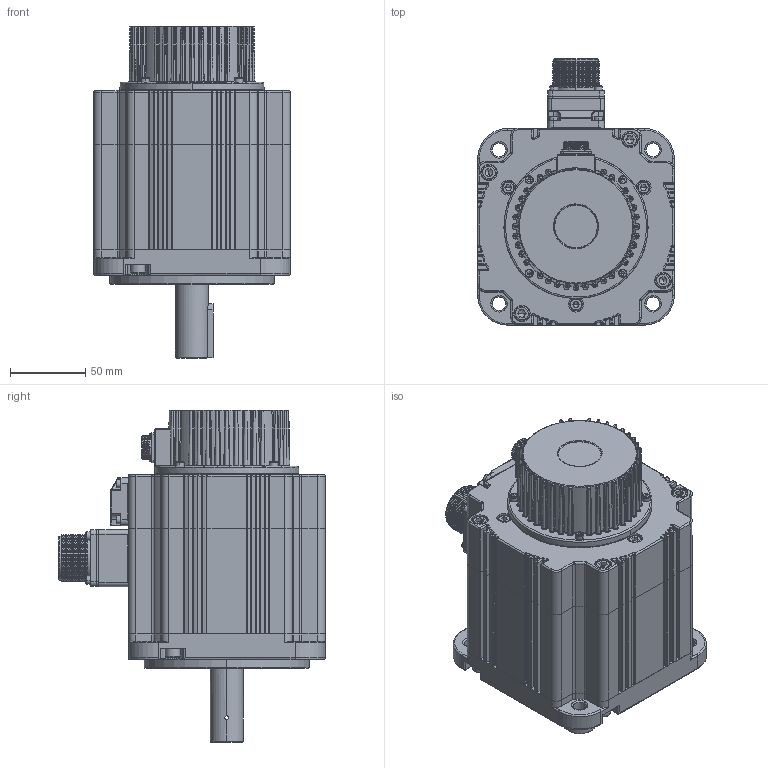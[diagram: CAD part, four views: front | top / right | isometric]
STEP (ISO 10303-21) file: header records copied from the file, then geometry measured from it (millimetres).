
FILE_DESCRIPTION (( 'STEP AP214' ), '1' );
FILE_NAME ('9120122240+V7E-M13A-R8515-D2C.STEP', '2021-08-11T05:25:38', ( '' ), ( '' ), 'SwSTEP 2.0', 'SolidWorks 2014', '' );
FILE_SCHEMA (( 'AUTOMOTIVE_DESIGN' ));
Length unit declared in the file: millimetre
Products named in the file (22): SC瑤諾脣芛 16M-9H; SC晤鎢ん欶200908_9郋; SC瑤諾脣芛 MS3102A20-18P; 130陔ヶ傷裔200902; 零件1^V7-130#电机组件（带刹车）200927; SC綴傷裔200903-4晚源倛; 雄薯瑤脣釱200909; 价陬裔躇猾菜200915; V7-130#定子组件（不带刹车）; 价陬揤盄裔200912; 蚐猾 D00B999YF7-TC 30-42-7; 囀鞠褒 M6X20; 坋趼攫芛 M2X8; 囀鞠褒 M3X30; 儂褲200901; 9120122240+V7E-M13A-R8515-D2C; 囀鞠褒 M6X40; 130陔ヶ傷裔200917; 囀鞠褒 M5X16; 囀鞠褒 M3X8; SC粣200907; 囀鞠褒 M3X10
Assembly tree (40 placements, depth 4):
  零件1^V7-130#电机组件（带刹车）200927
  9120122240+V7E-M13A-R8515-D2C
    V7-130#定子组件（不带刹车）
      儂褲200901
      雄薯瑤脣釱200909
      囀鞠褒 M6X20  x4
      SC瑤諾脣芛 MS3102A20-18P
      囀鞠褒 M3X30  x4
      130陔ヶ傷裔200917
        130陔ヶ傷裔200902
    SC晤鎢ん欶200908_9郋
    囀鞠褒 M3X10  x4
    坋趼攫芛 M2X8  x4
    蚐猾 D00B999YF7-TC 30-42-7
    SC瑤諾脣芛 16M-9H
    价陬揤盄裔200912
    囀鞠褒 M3X8  x4
    囀鞠褒 M6X40  x4
    价陬裔躇猾菜200915
    SC粣200907
    SC綴傷裔200903-4晚源倛
    囀鞠褒 M5X16  x3
Bounding box: 131 x 177.3 x 221.2 mm (x, y, z)
Volume: 901549.4 mm3; surface area: 323554.7 mm2
Topology: 40 solids, 40 shells, 3519 faces, 8459 edges, 4898 vertices
Faces by surface type: cylinder 1315, plane 922, bspline 877, cone 355, torus 46, sphere 4
Entity records: 150307 total; most frequent: CARTESIAN_POINT 51309, ORIENTED_EDGE 14152, DIRECTION 12957, EDGE_CURVE 7076, AXIS2_PLACEMENT_3D 5124, VERTEX_POINT 4205, EDGE_LOOP 3275, UNCERTAINTY_MEASURE_WITH_UNIT 3074
